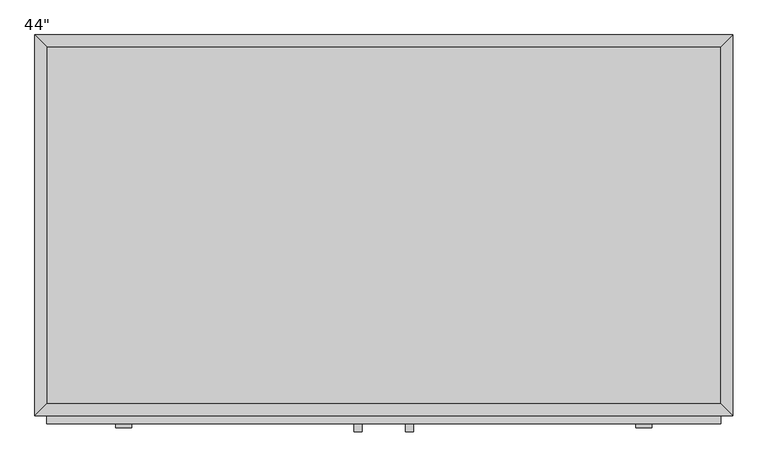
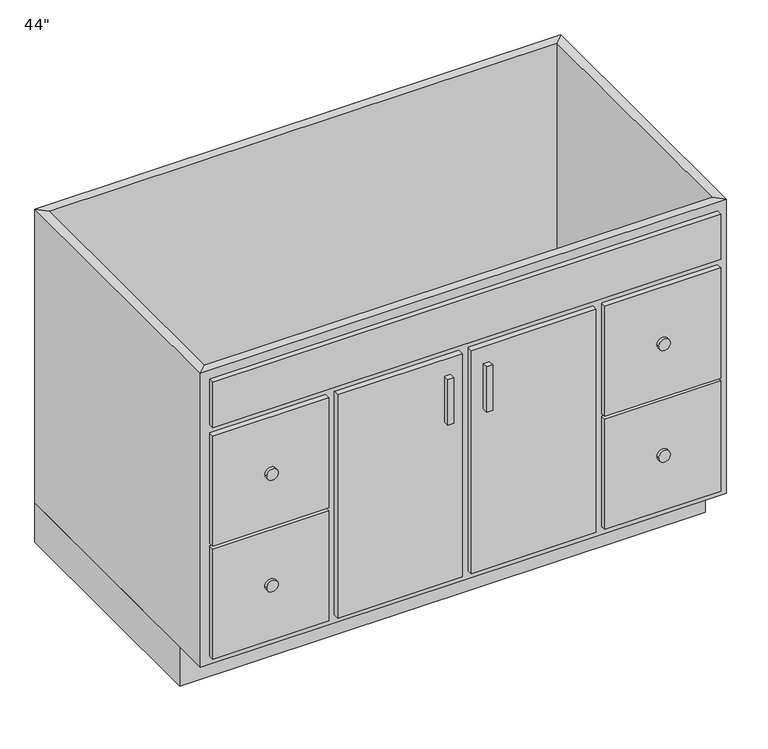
"""IFC4 building model written with IfcOpenShell, lengths in millimetres: furniture geometry."""

from ifc_helpers import new_model, si_unit, point, frame, frame_2d, origin, origin_with_axes, place, context, project, spatial, polyline, circle_curve, trimmed, segment, composite_curve, outline, extrude, faceted_brep, source, transform, mapped, element, save


def furniture_f6bb3406(model_context):
    return source(origin(), model_context, "Body", "SolidModel", [
        extrude(outline(polyline([(55.91996, -635.0), (43.21996, -635.0), (43.21996, -622.3), (55.91996, -622.3), (55.91996, -635.0)])), frame((0.0, 0.0, 469.9), z_axis=(0.0, 0.0, 1.0), x_axis=(1.0, 0.0, 0.0)), (0.0, 0.0, 1.0), 101.6),
        extrude(outline(polyline([(138.46996, -635.0), (125.76996, -635.0), (125.76996, -622.3), (138.46996, -622.3), (138.46996, -635.0)])), frame((0.0, 0.0, 469.9), z_axis=(0.0, 0.0, 1.0), x_axis=(1.0, 0.0, 0.0)), (0.0, 0.0, 1.0), 101.6),
        extrude(outline(composite_curve([segment(trimmed(circle_curve(frame_2d((484.1875, -325.87379)), 12.7), [point((484.1875, -338.57379))], [point((484.1875, -313.17379))], False, "CARTESIAN"), True, "CONTINUOUS"), segment(trimmed(circle_curve(frame_2d((484.1875, -325.87379)), 12.7), [point((484.1875, -313.17379))], [point((484.1875, -338.57379))], False, "CARTESIAN"), True, "CONTINUOUS")], self_intersect=False)), frame((0.0, -628.65, 0.0), z_axis=(0.0, 1.0, 0.0), x_axis=(0.0, 0.0, 1.0)), (0.0, 0.0, 1.0), 6.35),
        extrude(outline(composite_curve([segment(trimmed(circle_curve(frame_2d((233.3625, -325.87379)), 12.7), [point((233.3625, -338.57379))], [point((233.3625, -313.17379))], False, "CARTESIAN"), True, "CONTINUOUS"), segment(trimmed(circle_curve(frame_2d((233.3625, -325.87379)), 12.7), [point((233.3625, -313.17379))], [point((233.3625, -338.57379))], False, "CARTESIAN"), True, "CONTINUOUS")], self_intersect=False)), frame((0.0, -628.65, 0.0), z_axis=(0.0, 1.0, 0.0), x_axis=(0.0, 0.0, 1.0)), (0.0, 0.0, 1.0), 6.35),
        extrude(outline(composite_curve([segment(trimmed(circle_curve(frame_2d((233.3625, 507.56371)), 12.7), [point((233.3625, 494.86371))], [point((233.3625, 520.26371))], False, "CARTESIAN"), True, "CONTINUOUS"), segment(trimmed(circle_curve(frame_2d((233.3625, 507.56371)), 12.7), [point((233.3625, 520.26371))], [point((233.3625, 494.86371))], False, "CARTESIAN"), True, "CONTINUOUS")], self_intersect=False)), frame((0.0, -628.65, 0.0), z_axis=(0.0, 1.0, 0.0), x_axis=(0.0, 0.0, 1.0)), (0.0, 0.0, 1.0), 6.35),
        extrude(outline(composite_curve([segment(trimmed(circle_curve(frame_2d((484.1875, 507.56371)), 12.7), [point((484.1875, 494.86371))], [point((484.1875, 520.26371))], False, "CARTESIAN"), True, "CONTINUOUS"), segment(trimmed(circle_curve(frame_2d((484.1875, 507.56371)), 12.7), [point((484.1875, 520.26371))], [point((484.1875, 494.86371))], False, "CARTESIAN"), True, "CONTINUOUS")], self_intersect=False)), frame((0.0, -628.65, 0.0), z_axis=(0.0, 1.0, 0.0), x_axis=(0.0, 0.0, 1.0)), (0.0, 0.0, 1.0), 6.35),
        extrude(outline(polyline([(630.59496, -19.05), (630.59496, -590.55), (-448.90504, -590.55), (-448.90504, -19.05), (630.59496, -19.05)])), frame((0.0, 0.0, 88.9), z_axis=(0.0, 0.0, 1.0), x_axis=(1.0, 0.0, 0.0)), (0.0, 0.0, 1.0), 19.05),
        faceted_brep([(630.59496, -590.55, 749.3), (630.59496, -590.55, 88.9), (-448.90504, -590.55, 88.9), (-448.90504, -590.55, 749.3), (649.64496, -609.6, 749.3), (-467.95504, -609.6, 749.3), (649.64496, -609.6, 88.9), (-467.95504, -609.6, 88.9), (-448.90504, -19.05, 88.9), (-448.90504, -19.05, 749.3), (-467.95504, 0.0, 749.3), (-467.95504, 0.0, 88.9), (630.59496, -19.05, 88.9), (630.59496, -19.05, 749.3), (649.64496, 0.0, 749.3), (649.64496, 0.0, 88.9)], [[[0, 1, 2, 3]], [[4, 0, 3, 5]], [[6, 4, 5, 7]], [[1, 6, 7, 2]], [[3, 2, 8, 9]], [[5, 3, 9, 10]], [[7, 5, 10, 11]], [[2, 7, 11, 8]], [[9, 8, 12, 13]], [[10, 9, 13, 14]], [[11, 10, 14, 15]], [[8, 11, 15, 12]], [[13, 12, 1, 0]], [[14, 13, 0, 4]], [[15, 14, 4, 6]], [[12, 15, 6, 1]]]),
        extrude(outline(polyline([(649.64496, 0.0), (649.64496, -533.4), (-467.95504, -533.4), (-467.95504, 0.0), (649.64496, 0.0)])), origin_with_axes(), (0.0, 0.0, 1.0), 88.9),
        extrude(outline(polyline([(630.59496, -622.3), (-448.90504, -622.3), (-448.90504, -609.6), (630.59496, -609.6), (630.59496, -622.3)])), frame((0.0, 0.0, 628.65), z_axis=(0.0, 0.0, 1.0), x_axis=(1.0, 0.0, 0.0)), (0.0, 0.0, 1.0), 101.6),
        extrude(outline(polyline([(630.59496, -622.3), (384.53246, -622.3), (384.53246, -609.6), (630.59496, -609.6), (630.59496, -622.3)])), frame((0.0, 0.0, 361.95), z_axis=(0.0, 0.0, 1.0), x_axis=(1.0, 0.0, 0.0)), (0.0, 0.0, 1.0), 247.65),
        extrude(outline(polyline([(630.59496, -622.3), (384.53246, -622.3), (384.53246, -609.6), (630.59496, -609.6), (630.59496, -622.3)])), frame((0.0, 0.0, 107.95), z_axis=(0.0, 0.0, 1.0), x_axis=(1.0, 0.0, 0.0)), (0.0, 0.0, 1.0), 247.65),
        extrude(outline(polyline([(-202.84254, -622.3), (-448.90504, -622.3), (-448.90504, -609.6), (-202.84254, -609.6), (-202.84254, -622.3)])), frame((0.0, 0.0, 361.95), z_axis=(0.0, 0.0, 1.0), x_axis=(1.0, 0.0, 0.0)), (0.0, 0.0, 1.0), 247.65),
        extrude(outline(polyline([(-202.84254, -622.3), (-448.90504, -622.3), (-448.90504, -609.6), (-202.84254, -609.6), (-202.84254, -622.3)])), frame((0.0, 0.0, 107.95), z_axis=(0.0, 0.0, 1.0), x_axis=(1.0, 0.0, 0.0)), (0.0, 0.0, 1.0), 247.65),
        extrude(outline(polyline([(81.31996, -622.3), (-183.79254, -622.3), (-183.79254, -609.6), (81.31996, -609.6), (81.31996, -622.3)])), frame((0.0, 0.0, 107.95), z_axis=(0.0, 0.0, 1.0), x_axis=(1.0, 0.0, 0.0)), (0.0, 0.0, 1.0), 501.65),
        extrude(outline(polyline([(365.48246, -622.3), (100.36996, -622.3), (100.36996, -609.6), (365.48246, -609.6), (365.48246, -622.3)])), frame((0.0, 0.0, 107.95), z_axis=(0.0, 0.0, 1.0), x_axis=(1.0, 0.0, 0.0)), (0.0, 0.0, 1.0), 501.65),
    ])


if __name__ == "__main__":
    model = new_model("IFC4")
    model_context = context("Model", 3, world=origin())
    ifc_project = project(units=[si_unit("LENGTHUNIT", "METRE", prefix="MILLI")], contexts=[model_context])
    site = spatial("IfcSite", under=ifc_project)
    building = spatial("IfcBuilding", under=site)
    placement = place(None, origin())
    furniture_shape = furniture_f6bb3406(model_context)
    element("IfcFurniture", 1, ObjectType="Vanity Cabinet-Double Door & 4 Drawer : 44\"", at=placement, inside=building, context=model_context, shape_type="MappedRepresentation", body=[
        mapped(furniture_shape, transform((0.0, 0.0, 0.0), x_axis=(1.0, 0.0, 0.0), y_axis=(0.0, 1.0, 0.0), z_axis=(0.0, 0.0, 1.0))),
    ])
    save(model, "model.ifc")
